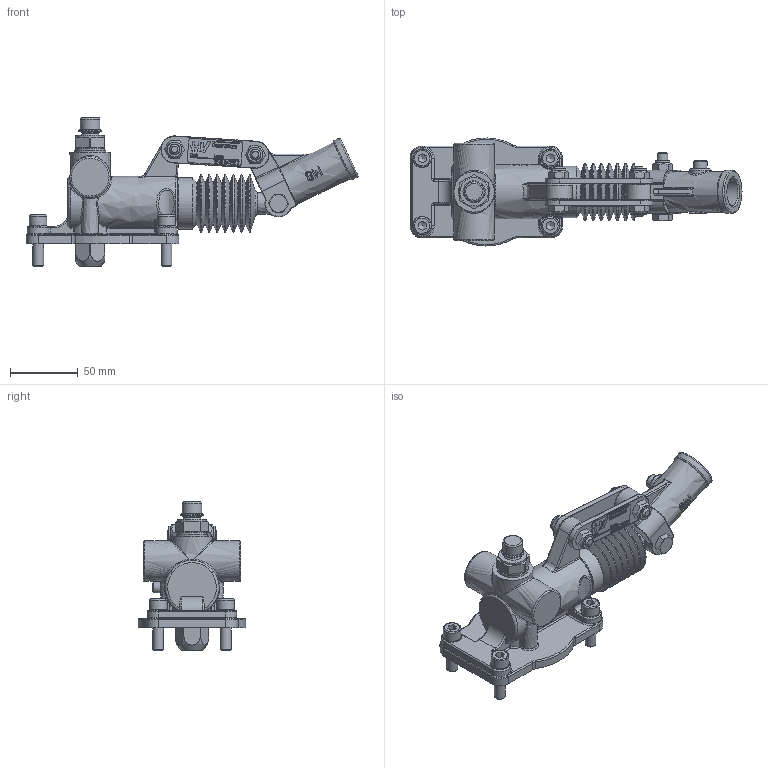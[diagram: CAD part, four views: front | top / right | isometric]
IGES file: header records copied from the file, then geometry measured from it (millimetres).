
Global section: file name: No Iges File Name specified; native system: Autodesk Inventor 2013; preprocessor: AutoDesk Inventor Iges Exporter R2013; author: christian.scardovi; date: 20240325.155918; units: millimetre
Bounding box: 245.91 x 79.99 x 110 mm (x, y, z)
Volume: 354811.3 mm3; surface area: 85698.6 mm2
Topology: 1 solids, 1 shells, 1281 faces, 3190 edges, 1983 vertices
Faces by surface type: bspline 1281
